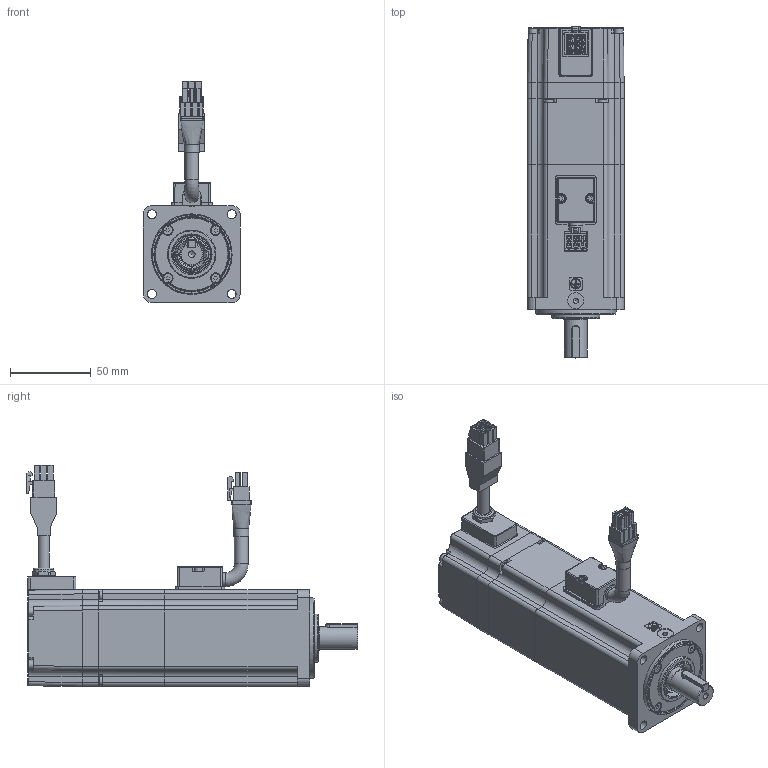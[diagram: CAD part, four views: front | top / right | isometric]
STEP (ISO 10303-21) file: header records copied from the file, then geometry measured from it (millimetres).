
FILE_DESCRIPTION( ( 'Unknown' ), '1' );
FILE_NAME( 'X:/05_Progetto TCE/010-TCE motor drawings/TCE60/vuoti/TCE60 2B XX 3 A1 1 D0.stp', 'Unknown', ( 'Unknown' ), ( 'Unknown' ), 'PSStep 17.0.49', 'Unknown', ' ' );
FILE_SCHEMA( ( 'AUTOMOTIVE_DESIGN { 1 0 10303 214 1 1 1 1 }' ) );
Length unit declared in the file: millimetre
Products named in the file (55): 003108015152_curva; 003303000376; 005453000452_D8,5; U5100004_vuoto; 005911000598; 001799000503; 003120002512; 007102000210; 001107000618; cavo cablato x campana TCE - SICK; 003303000025; 003711000103; 005603001004; Assem1; 005123000690; 005123000100; 003251022005; 003103001508; 005007000294; 005204000004; 005204000002; 005204000001; 005008000960-oa0; 005008000958-oa1; 005008000958-oa2; 005008000400-oa3; 005911003621; 005911003622; 005911000262; 005008000906-oa4; 003155002051; 005911000491; 003155002052; 005113000362; 005119001312; 003003050090
Assembly tree (67 placements, depth 4):
  Assem1
    005123000690
    005123000690
    005123000690
    005123000690
    005123000690
    005123000690
    005123000690
    005123000690
    005123000100
    005123000100
    005123000100
    005123000100
    005123000100
    005123000100
    005123000100
    003251022005
    003103001508
    005007000294
    005204000004
    005204000002
    005204000001
    005008000960-oa0
    005008000958-oa1
    005008000958-oa2
    005008000400-oa3
    005911003621  x4
    005911003622  x4
    005911000262  x4
    005008000906-oa4
    003155002051
    005911000491  x4
    003155002052
    005113000362
    005119001312
    005119001312
    003003050090
    007102000210
      001107000618
      cavo cablato x campana TCE - SICK
      cavo cablato x campana TCE - SICK
      003303000025
      003711000103
      005603001004
    U5100004_vuoto
      005911000598  x2
      001799000503
      003120002512
      003120002512
      003108015152_curva
        003303000376
        005453000452_D8,5
        003108015152_curva
        003108015152_curva
        003108015152_curva
Bounding box: 60.3 x 205.9 x 137.2 mm (x, y, z)
Volume: 248597.8 mm3; surface area: 165987.2 mm2
Topology: 64 solids, 64 shells, 2434 faces, 6082 edges, 3896 vertices
Faces by surface type: plane 1403, cylinder 535, bspline 145, torus 141, cone 137, extrusion 37, sphere 36
Full cylindrical faces by diameter (mm): 1 x1, 2.013 x3, 2.459 x37, 2.5 x2, 2.6 x13, 2.7 x2, 3 x16, 3.242 x4, 3.5 x20, 4.134 x2, 4.7 x2, 5.5 x13, 6 x3, 6.5 x1, 6.8 x1, 7 x1, 7.1 x1, 7.2 x2, 7.25 x1, 8.1 x1, 8.5 x2, 8.51 x1, 9.11 x1, 9.98 x1, 10 x4, 10.3 x2, 10.647 x1, 12 x2, 12.7 x1, 14 x2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
Entity records: 99388 total; most frequent: CARTESIAN_POINT 29764, ORIENTED_EDGE 10342, DIRECTION 10287, EDGE_CURVE 5171, VERTEX_POINT 3550, AXIS2_PLACEMENT_3D 3494, VECTOR 3299, LINE 3262
